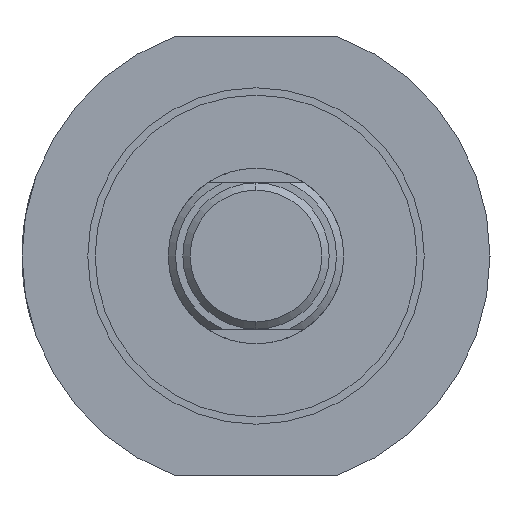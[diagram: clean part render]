
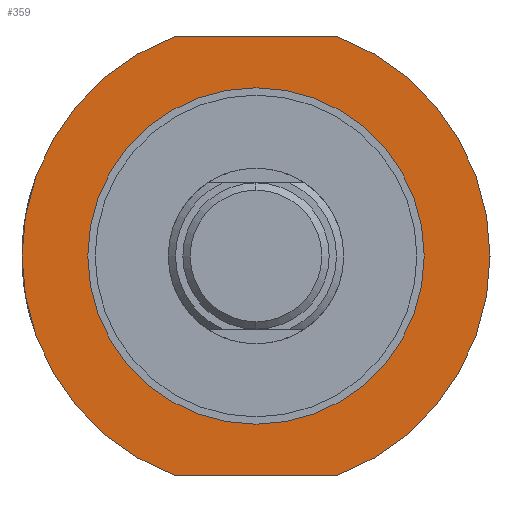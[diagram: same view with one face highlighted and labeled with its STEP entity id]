
A CAD part, left-side view. The second image highlights one B-rep face of the part: STEP entity #359.
In plain terms, the highlighted planar face has unit normal (-1, 0, 0).
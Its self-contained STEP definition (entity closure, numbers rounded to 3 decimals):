
#15 = DIRECTION ( 'NONE',  ( 0., 0., -1. ) ) ;
#19 = DIRECTION ( 'NONE',  ( 1., 0., 0. ) ) ;
#108 = CARTESIAN_POINT ( 'NONE',  ( 67., -5.568, -15. ) ) ;
#111 = LINE ( 'NONE', #308, #901 ) ;
#144 = ORIENTED_EDGE ( 'NONE', *, *, #572, .T. ) ;
#158 = CARTESIAN_POINT ( 'NONE',  ( 67., 5.568, 15. ) ) ;
#202 = VERTEX_POINT ( 'NONE', #1176 ) ;
#242 = AXIS2_PLACEMENT_3D ( 'NONE', #354, #1550, #1033 ) ;
#264 = ORIENTED_EDGE ( 'NONE', *, *, #478, .F. ) ;
#308 = CARTESIAN_POINT ( 'NONE',  ( 67., 11.874, -15. ) ) ;
#354 = CARTESIAN_POINT ( 'NONE',  ( 67., 0., 0. ) ) ;
#359 = ADVANCED_FACE ( 'NONE', ( #1394, #1448 ), #1367, .F. ) ;
#422 = EDGE_CURVE ( 'NONE', #1008, #477, #700, .T. ) ;
#468 = CIRCLE ( 'NONE', #242, 11.5 ) ;
#477 = VERTEX_POINT ( 'NONE', #1005 ) ;
#478 = EDGE_CURVE ( 'NONE', #930, #202, #916, .T. ) ;
#572 = EDGE_CURVE ( 'NONE', #908, #691, #1123, .T. ) ;
#589 = DIRECTION ( 'NONE',  ( -1., 0., 0. ) ) ;
#610 = AXIS2_PLACEMENT_3D ( 'NONE', #1432, #589, #834 ) ;
#652 = DIRECTION ( 'NONE',  ( 0., -1., 0. ) ) ;
#654 = ORIENTED_EDGE ( 'NONE', *, *, #919, .F. ) ;
#691 = VERTEX_POINT ( 'NONE', #1188 ) ;
#692 = EDGE_LOOP ( 'NONE', ( #863, #264 ) ) ;
#700 = CIRCLE ( 'NONE', #1468, 16. ) ;
#710 = CARTESIAN_POINT ( 'NONE',  ( 67., 11.874, 15. ) ) ;
#767 = DIRECTION ( 'NONE',  ( 0., 0., 1. ) ) ;
#790 = CARTESIAN_POINT ( 'NONE',  ( 67., 0., 0. ) ) ;
#802 = DIRECTION ( 'NONE',  ( 0., 0., 1. ) ) ;
#834 = DIRECTION ( 'NONE',  ( 0., 0., 1. ) ) ;
#863 = ORIENTED_EDGE ( 'NONE', *, *, #876, .F. ) ;
#876 = EDGE_CURVE ( 'NONE', #202, #930, #468, .T. ) ;
#901 = VECTOR ( 'NONE', #1411, 1000. ) ;
#908 = VERTEX_POINT ( 'NONE', #108 ) ;
#916 = CIRCLE ( 'NONE', #1106, 11.5 ) ;
#919 = EDGE_CURVE ( 'NONE', #908, #477, #111, .T. ) ;
#930 = VERTEX_POINT ( 'NONE', #1036 ) ;
#941 = EDGE_CURVE ( 'NONE', #1008, #691, #1191, .T. ) ;
#978 = VECTOR ( 'NONE', #652, 1000. ) ;
#1005 = CARTESIAN_POINT ( 'NONE',  ( 67., 5.568, -15. ) ) ;
#1008 = VERTEX_POINT ( 'NONE', #158 ) ;
#1023 = ORIENTED_EDGE ( 'NONE', *, *, #941, .F. ) ;
#1033 = DIRECTION ( 'NONE',  ( 0., 0., 1. ) ) ;
#1036 = CARTESIAN_POINT ( 'NONE',  ( 67., 0., -11.5 ) ) ;
#1049 = CARTESIAN_POINT ( 'NONE',  ( 67., 0., 0. ) ) ;
#1099 = AXIS2_PLACEMENT_3D ( 'NONE', #1514, #19, #15 ) ;
#1106 = AXIS2_PLACEMENT_3D ( 'NONE', #790, #1222, #767 ) ;
#1123 = CIRCLE ( 'NONE', #610, 16. ) ;
#1176 = CARTESIAN_POINT ( 'NONE',  ( 67., 0., 11.5 ) ) ;
#1188 = CARTESIAN_POINT ( 'NONE',  ( 67., -5.568, 15. ) ) ;
#1191 = LINE ( 'NONE', #710, #978 ) ;
#1222 = DIRECTION ( 'NONE',  ( -1., 0., 0. ) ) ;
#1367 = PLANE ( 'NONE',  #1099 ) ;
#1382 = ORIENTED_EDGE ( 'NONE', *, *, #422, .T. ) ;
#1394 = FACE_BOUND ( 'NONE', #692, .T. ) ;
#1411 = DIRECTION ( 'NONE',  ( 0., 1., 0. ) ) ;
#1432 = CARTESIAN_POINT ( 'NONE',  ( 67., 0., 0. ) ) ;
#1448 = FACE_OUTER_BOUND ( 'NONE', #1472, .T. ) ;
#1468 = AXIS2_PLACEMENT_3D ( 'NONE', #1049, #1516, #802 ) ;
#1472 = EDGE_LOOP ( 'NONE', ( #1382, #654, #144, #1023 ) ) ;
#1514 = CARTESIAN_POINT ( 'NONE',  ( 67., 0., -16. ) ) ;
#1516 = DIRECTION ( 'NONE',  ( -1., 0., 0. ) ) ;
#1550 = DIRECTION ( 'NONE',  ( -1., 0., 0. ) ) ;
